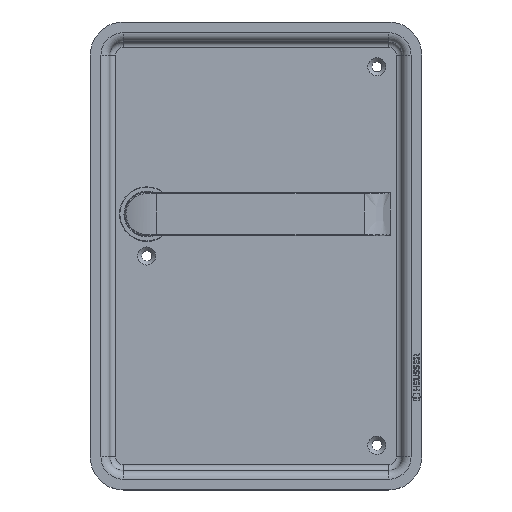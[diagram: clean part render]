
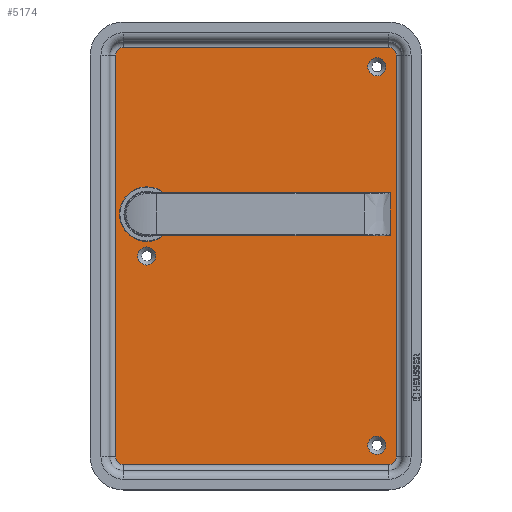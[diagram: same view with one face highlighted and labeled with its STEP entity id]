
A CAD part, top view. The second image highlights one B-rep face of the part: STEP entity #5174.
In plain terms, the highlighted planar face has unit normal (0, 0, 1).
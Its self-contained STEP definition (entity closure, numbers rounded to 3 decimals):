
#287=LINE('',#7277,#679);
#289=LINE('',#7295,#681);
#290=LINE('',#7298,#682);
#292=LINE('',#7315,#684);
#679=VECTOR('',#6012,10.);
#681=VECTOR('',#6034,10.);
#682=VECTOR('',#6037,10.);
#684=VECTOR('',#6059,10.);
#1144=FACE_BOUND('',#1610,.T.);
#1145=FACE_BOUND('',#1611,.T.);
#1146=FACE_BOUND('',#1612,.T.);
#1147=FACE_BOUND('',#1613,.T.);
#1281=FACE_OUTER_BOUND('',#1609,.T.);
#1609=EDGE_LOOP('',(#3587,#3588,#3589,#3590,#3591,#3592,#3593,#3594));
#1610=EDGE_LOOP('',(#3595));
#1611=EDGE_LOOP('',(#3596));
#1612=EDGE_LOOP('',(#3597));
#1613=EDGE_LOOP('',(#3598));
#1928=CIRCLE('',#5480,4.);
#1929=CIRCLE('',#5482,4.);
#1936=CIRCLE('',#5492,4.);
#1937=CIRCLE('',#5494,4.);
#1986=CIRCLE('',#5594,4.65);
#1987=CIRCLE('',#5596,4.65);
#1988=CIRCLE('',#5598,14.);
#1989=CIRCLE('',#5599,4.65);
#2105=VERTEX_POINT('',#7271);
#2107=VERTEX_POINT('',#7275);
#2109=VERTEX_POINT('',#7281);
#2110=VERTEX_POINT('',#7285);
#2113=VERTEX_POINT('',#7293);
#2114=VERTEX_POINT('',#7297);
#2117=VERTEX_POINT('',#7305);
#2118=VERTEX_POINT('',#7309);
#2179=VERTEX_POINT('',#7527);
#2180=VERTEX_POINT('',#7530);
#2181=VERTEX_POINT('',#7533);
#2182=VERTEX_POINT('',#7535);
#2599=EDGE_CURVE('',#2107,#2105,#287,.T.);
#2602=EDGE_CURVE('',#2109,#2107,#1928,.T.);
#2603=EDGE_CURVE('',#2105,#2110,#1929,.T.);
#2608=EDGE_CURVE('',#2113,#2109,#289,.T.);
#2609=EDGE_CURVE('',#2110,#2114,#290,.T.);
#2614=EDGE_CURVE('',#2117,#2113,#1936,.T.);
#2615=EDGE_CURVE('',#2114,#2118,#1937,.T.);
#2618=EDGE_CURVE('',#2118,#2117,#292,.T.);
#2719=EDGE_CURVE('',#2179,#2179,#1986,.T.);
#2720=EDGE_CURVE('',#2180,#2180,#1987,.T.);
#2721=EDGE_CURVE('',#2181,#2181,#1988,.T.);
#2722=EDGE_CURVE('',#2182,#2182,#1989,.T.);
#3587=ORIENTED_EDGE('',*,*,#2618,.F.);
#3588=ORIENTED_EDGE('',*,*,#2615,.F.);
#3589=ORIENTED_EDGE('',*,*,#2609,.F.);
#3590=ORIENTED_EDGE('',*,*,#2603,.F.);
#3591=ORIENTED_EDGE('',*,*,#2599,.F.);
#3592=ORIENTED_EDGE('',*,*,#2602,.F.);
#3593=ORIENTED_EDGE('',*,*,#2608,.F.);
#3594=ORIENTED_EDGE('',*,*,#2614,.F.);
#3595=ORIENTED_EDGE('',*,*,#2721,.T.);
#3596=ORIENTED_EDGE('',*,*,#2720,.F.);
#3597=ORIENTED_EDGE('',*,*,#2719,.F.);
#3598=ORIENTED_EDGE('',*,*,#2722,.F.);
#4681=PLANE('',#5597);
#5174=ADVANCED_FACE('',(#1281,#1144,#1145,#1146,#1147),#4681,.T.);
#5480=AXIS2_PLACEMENT_3D('',#7283,#6019,#6020);
#5482=AXIS2_PLACEMENT_3D('',#7286,#6023,#6024);
#5492=AXIS2_PLACEMENT_3D('',#7307,#6047,#6048);
#5494=AXIS2_PLACEMENT_3D('',#7310,#6051,#6052);
#5594=AXIS2_PLACEMENT_3D('',#7528,#6304,#6305);
#5596=AXIS2_PLACEMENT_3D('',#7531,#6308,#6309);
#5597=AXIS2_PLACEMENT_3D('',#7532,#6310,#6311);
#5598=AXIS2_PLACEMENT_3D('',#7534,#6312,#6313);
#5599=AXIS2_PLACEMENT_3D('',#7536,#6314,#6315);
#6012=DIRECTION('',(0.,-1.,0.));
#6019=DIRECTION('center_axis',(0.,0.,-1.));
#6020=DIRECTION('ref_axis',(0.707,0.707,0.));
#6023=DIRECTION('center_axis',(0.,0.,-1.));
#6024=DIRECTION('ref_axis',(0.707,-0.707,0.));
#6034=DIRECTION('',(1.,0.,0.));
#6037=DIRECTION('',(-1.,0.,0.));
#6047=DIRECTION('center_axis',(0.,0.,-1.));
#6048=DIRECTION('ref_axis',(-0.707,0.707,0.));
#6051=DIRECTION('center_axis',(0.,0.,-1.));
#6052=DIRECTION('ref_axis',(-0.707,-0.707,0.));
#6059=DIRECTION('',(0.,1.,0.));
#6304=DIRECTION('center_axis',(0.,0.,1.));
#6305=DIRECTION('ref_axis',(-1.,0.,0.));
#6308=DIRECTION('center_axis',(0.,0.,1.));
#6309=DIRECTION('ref_axis',(-1.,0.,0.));
#6310=DIRECTION('center_axis',(0.,0.,1.));
#6311=DIRECTION('ref_axis',(1.,0.,0.));
#6312=DIRECTION('center_axis',(0.,0.,-1.));
#6313=DIRECTION('ref_axis',(1.,0.,0.));
#6314=DIRECTION('center_axis',(0.,0.,1.));
#6315=DIRECTION('ref_axis',(-1.,0.,0.));
#7271=CARTESIAN_POINT('',(70.865,-93.546,-5.5));
#7275=CARTESIAN_POINT('',(70.865,112.454,-5.5));
#7277=CARTESIAN_POINT('',(70.865,60.954,-5.5));
#7281=CARTESIAN_POINT('',(66.865,116.454,-5.5));
#7283=CARTESIAN_POINT('Origin',(66.865,112.454,-5.5));
#7285=CARTESIAN_POINT('',(66.865,-97.546,-5.5));
#7286=CARTESIAN_POINT('Origin',(66.865,-93.546,-5.5));
#7293=CARTESIAN_POINT('',(-69.135,116.454,-5.5));
#7295=CARTESIAN_POINT('',(-35.135,116.454,-5.5));
#7297=CARTESIAN_POINT('',(-69.135,-97.546,-5.5));
#7298=CARTESIAN_POINT('',(32.865,-97.546,-5.5));
#7305=CARTESIAN_POINT('',(-73.135,112.454,-5.5));
#7307=CARTESIAN_POINT('Origin',(-69.135,112.454,-5.5));
#7309=CARTESIAN_POINT('',(-73.135,-93.546,-5.5));
#7310=CARTESIAN_POINT('Origin',(-69.135,-93.546,-5.5));
#7315=CARTESIAN_POINT('',(-73.135,-42.046,-5.5));
#7527=CARTESIAN_POINT('',(65.515,-87.546,-5.5));
#7528=CARTESIAN_POINT('Origin',(60.865,-87.546,-5.5));
#7530=CARTESIAN_POINT('',(65.515,106.454,-5.5));
#7531=CARTESIAN_POINT('Origin',(60.865,106.454,-5.5));
#7532=CARTESIAN_POINT('Origin',(-1.135,9.454,-5.5));
#7533=CARTESIAN_POINT('',(-71.135,30.954,-5.5));
#7534=CARTESIAN_POINT('Origin',(-57.135,30.954,-5.5));
#7535=CARTESIAN_POINT('',(-52.485,9.454,-5.5));
#7536=CARTESIAN_POINT('Origin',(-57.135,9.454,-5.5));
